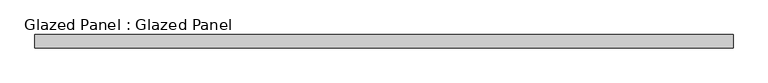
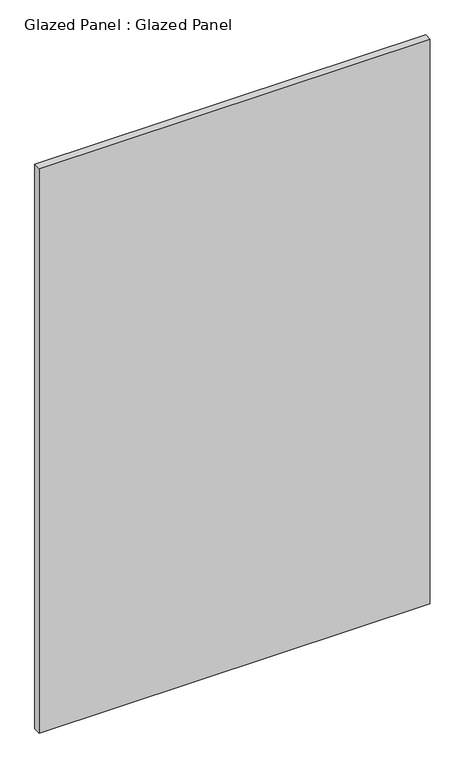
"""IFC4 building model written with IfcOpenShell, lengths in millimetres: plate geometry, Glazed Panel : Glazed Panel."""

import ifcopenshell
import ifcopenshell.guid

model = None  # the IFC model being written
_history = None  # IfcOwnerHistory: only IFC2X3 demands one
_inside = {}  # id of a spatial element -> (the spatial element, [elements in it])
_under = {}  # id of a project, library or spatial element -> (it, [spatial elements below it])
_declared = {}  # id of a project -> (the project, [libraries it declares])
_typed = {}  # id of a type object -> (the type object, [elements of that type])
_made_of = {}  # id of a material, layer set ... -> (it, [elements and type objects made of it])


def new_model(schema):
    """Start an empty IFC model of exactly this schema.

    Asked for "IFC4X3", IfcOpenShell would pick the latest addendum, in which some entities
    have other attributes; the version numbers below select the first issue.
    IFC2X3 requires an IfcOwnerHistory on every rooted entity: one is made here for all.
    """
    global model, _history
    if schema == "IFC4X3":
        model = ifcopenshell.file(schema_version=(4, 3, 0, 0))
    else:
        model = ifcopenshell.file(schema=schema)
    _inside.clear()
    _under.clear()
    _declared.clear()
    _typed.clear()
    _made_of.clear()
    _history = None
    if model.schema == "IFC2X3":
        org = make("IfcOrganization", Name="unknown")
        user = make(
            "IfcPersonAndOrganization",
            ThePerson=make("IfcPerson", FamilyName="unknown"),
            TheOrganization=org,
        )
        app = make(
            "IfcApplication",
            ApplicationDeveloper=org,
            Version="unknown",
            ApplicationFullName="unknown",
            ApplicationIdentifier="unknown",
        )
        _history = make(
            "IfcOwnerHistory",
            OwningUser=user,
            OwningApplication=app,
            ChangeAction="ADDED",
            CreationDate=0,
        )
    return model


def make(cls, **values):
    """One entity of the class cls with the attributes given. An attribute that is None is left unset."""
    return model.create_entity(
        cls, **{name: value for name, value in values.items() if value is not None}
    )


def rooted(cls, **values):
    """An entity with a GlobalId (a new one), such as an element, a storey or a relation."""
    return make(cls, GlobalId=ifcopenshell.guid.new(), OwnerHistory=_history, **values)


def si_unit(unit_type, name, prefix=None):
    """IfcSIUnit, for example si_unit("LENGTHUNIT", "METRE", prefix="MILLI")."""
    return make("IfcSIUnit", UnitType=unit_type, Prefix=prefix, Name=name)


def assignment(units):
    """IfcUnitAssignment: the units of a project."""
    return None if units is None else make("IfcUnitAssignment", Units=units)


def point(xyz):
    """IfcCartesianPoint."""
    return None if xyz is None else make("IfcCartesianPoint", Coordinates=xyz)


def direction(xyz):
    """IfcDirection."""
    return None if xyz is None else make("IfcDirection", DirectionRatios=xyz)


def frame(location, z_axis=None, x_axis=None):
    """IfcAxis2Placement3D, a coordinate frame: its origin and axes. An axis left out is left unset."""
    return make(
        "IfcAxis2Placement3D",
        Location=point(location),
        Axis=direction(z_axis),
        RefDirection=direction(x_axis),
    )


def origin():
    """The frame at (0, 0, 0) with its axes left unset."""
    return frame((0.0, 0.0, 0.0))


def origin_with_axes():
    """The frame at (0, 0, 0) with the z axis (0, 0, 1) and the x axis (1, 0, 0) written out."""
    return frame((0.0, 0.0, 0.0), z_axis=(0.0, 0.0, 1.0), x_axis=(1.0, 0.0, 0.0))


def place(relative_to, where):
    """IfcLocalPlacement: puts the frame where relative to a parent placement (None: the world)."""
    return make(
        "IfcLocalPlacement", PlacementRelTo=relative_to, RelativePlacement=where
    )


def context(
    kind, dimensions, precision=None, world=None, true_north=None, identifier=None
):
    """IfcGeometricRepresentationContext, for example the 3D "Model" context."""
    return make(
        "IfcGeometricRepresentationContext",
        ContextIdentifier=identifier,
        ContextType=kind,
        CoordinateSpaceDimension=dimensions,
        Precision=precision,
        WorldCoordinateSystem=world,
        TrueNorth=true_north,
    )


def project(units=None, contexts=None):
    """IfcProject with its units and contexts."""
    return rooted(
        "IfcProject",
        Name="project",
        RepresentationContexts=contexts,
        UnitsInContext=assignment(units),
    )


def spatial(cls, under=None, at=None, **own):
    """A site, building, storey or space (cls), placed at a placement, below another one or the project."""
    s = rooted(cls, ObjectPlacement=at, **own)
    if under is not None:
        _under.setdefault(under.id(), (under, []))[1].append(s)
    return s


def polyline(points):
    """IfcPolyline through the points."""
    return make("IfcPolyline", Points=[point(p) for p in points])


def outline(outer, holes=None, kind="AREA"):
    """IfcArbitraryClosedProfileDef: a profile drawn as a closed curve; with holes, ...WithVoids."""
    if holes is None:
        return make("IfcArbitraryClosedProfileDef", ProfileType=kind, OuterCurve=outer)
    return make(
        "IfcArbitraryProfileDefWithVoids",
        ProfileType=kind,
        OuterCurve=outer,
        InnerCurves=holes,
    )


def extrude(swept, where, along, depth):
    """IfcExtrudedAreaSolid: the profile swept, set in the frame where, extruded along a direction by depth."""
    return make(
        "IfcExtrudedAreaSolid",
        SweptArea=swept,
        Position=where,
        ExtrudedDirection=direction(along),
        Depth=depth,
    )


def shape(context_of_items, identifier, shape_type, items):
    """IfcShapeRepresentation: the items that make up one representation, for example the "Body"."""
    return make(
        "IfcShapeRepresentation",
        ContextOfItems=context_of_items,
        RepresentationIdentifier=identifier,
        RepresentationType=shape_type,
        Items=items,
    )


def source(mapping_origin, context_of_items, identifier, shape_type, items):
    """IfcRepresentationMap: a shape defined once, which mapped items show again and again."""
    return make(
        "IfcRepresentationMap",
        MappingOrigin=mapping_origin,
        MappedRepresentation=shape(context_of_items, identifier, shape_type, items),
    )


def transform(
    local_origin,
    x_axis=None,
    y_axis=None,
    z_axis=None,
    scale=None,
    scale2=None,
    scale3=None,
    uniform=True,
):
    """IfcCartesianTransformationOperator3D, or its non-uniform kind. x_axis, y_axis, z_axis: its Axis1, 2, 3."""
    if uniform:
        return make(
            "IfcCartesianTransformationOperator3D",
            Axis1=direction(x_axis),
            Axis2=direction(y_axis),
            LocalOrigin=point(local_origin),
            Scale=scale,
            Axis3=direction(z_axis),
        )
    return make(
        "IfcCartesianTransformationOperator3DnonUniform",
        Axis1=direction(x_axis),
        Axis2=direction(y_axis),
        LocalOrigin=point(local_origin),
        Scale=scale,
        Axis3=direction(z_axis),
        Scale2=scale2,
        Scale3=scale3,
    )


def mapped(mapping_source, mapping_target):
    """IfcMappedItem: shows the shape of a source again, moved by a transform."""
    return make(
        "IfcMappedItem", MappingSource=mapping_source, MappingTarget=mapping_target
    )


def made_of(thing, what):
    """Note that an element or type object is made of a material, layer set ...; save() writes the relation."""
    if what is not None:
        _made_of.setdefault(what.id(), (what, []))[1].append(thing)
    return thing


def element(
    cls,
    number,
    at=None,
    inside=None,
    cuts=None,
    type_object=None,
    material=None,
    context=None,
    identifier="Body",
    shape_type=None,
    held_by="IfcProductDefinitionShape",
    body=None,
    shapes=None,
    **own,
):
    """One element of the class cls, such as IfcWall. Its Tag is "e" and its number.

    at: its placement. inside: the storey or other place that contains it. cuts: it is an
    opening in that element (IfcRelVoidsElement). A single representation is given by context,
    identifier, shape_type and body (its items); several are given by shapes. held_by: the class
    of the entity that holds the representations. save() writes the other relations.
    """
    e = rooted(cls, Tag="e%d" % number, ObjectPlacement=at, **own)
    if body is not None:
        shapes = [shape(context, identifier, shape_type, body)]
    if shapes is not None:
        e.Representation = make(held_by, Representations=shapes)
    if inside is not None:
        _inside.setdefault(inside.id(), (inside, []))[1].append(e)
    if cuts is not None:
        rooted(
            "IfcRelVoidsElement", RelatingBuildingElement=cuts, RelatedOpeningElement=e
        )
    if type_object is not None:
        _typed.setdefault(type_object.id(), (type_object, []))[1].append(e)
    return made_of(e, material)


def aggregate(whole, parts):
    """IfcRelAggregates: a whole, such as a stair, and the parts it consists of."""
    return rooted("IfcRelAggregates", RelatingObject=whole, RelatedObjects=parts)


def save(model, path):
    """Write the relations noted so far, then the file.

    IfcRelAggregates (storeys below a building ...), IfcRelContainedInSpatialStructure (elements
    in a storey), IfcRelDefinesByType, IfcRelAssociatesMaterial and IfcRelDeclares: one each for
    every whole, place, type object, material and project.
    """
    for whole, parts in _under.values():
        aggregate(whole, parts)
    for where, things in _inside.values():
        rooted(
            "IfcRelContainedInSpatialStructure",
            RelatedElements=things,
            RelatingStructure=where,
        )
    for kind, things in _typed.values():
        rooted("IfcRelDefinesByType", RelatedObjects=things, RelatingType=kind)
    for what, things in _made_of.values():
        rooted("IfcRelAssociatesMaterial", RelatedObjects=things, RelatingMaterial=what)
    for by, libraries in _declared.values():
        rooted("IfcRelDeclares", RelatingContext=by, RelatedDefinitions=libraries)
    model.write(path)


def glazed_panel_glazed_panel_5dc94581(model_context):
    return source(origin(), model_context, "Body", "SweptSolid", [
        extrude(outline(polyline([(668.3375, 38.1), (-668.3375, 38.1), (-668.3375, 63.5), (668.3375, 63.5), (668.3375, 38.1)])), origin_with_axes(), (0.0, 0.0, 1.0), 2038.35),
    ])


if __name__ == "__main__":
    model = new_model("IFC4")
    model_context = context("Model", 3, world=origin())
    ifc_project = project(units=[si_unit("LENGTHUNIT", "METRE", prefix="MILLI")], contexts=[model_context])
    site = spatial("IfcSite", under=ifc_project)
    building = spatial("IfcBuilding", under=site)
    placement = place(None, origin())
    glazed_panel_glazed_panel_shape = glazed_panel_glazed_panel_5dc94581(model_context)
    element("IfcPlate", 1, ObjectType="Glazed Panel : Glazed Panel", at=placement, inside=building, context=model_context, shape_type="MappedRepresentation", body=[
        mapped(glazed_panel_glazed_panel_shape, transform((0.0, 0.0, 0.0), x_axis=(1.0, 0.0, 0.0), y_axis=(0.0, 1.0, 0.0), z_axis=(0.0, 0.0, 1.0))),
    ])
    save(model, "model.ifc")
